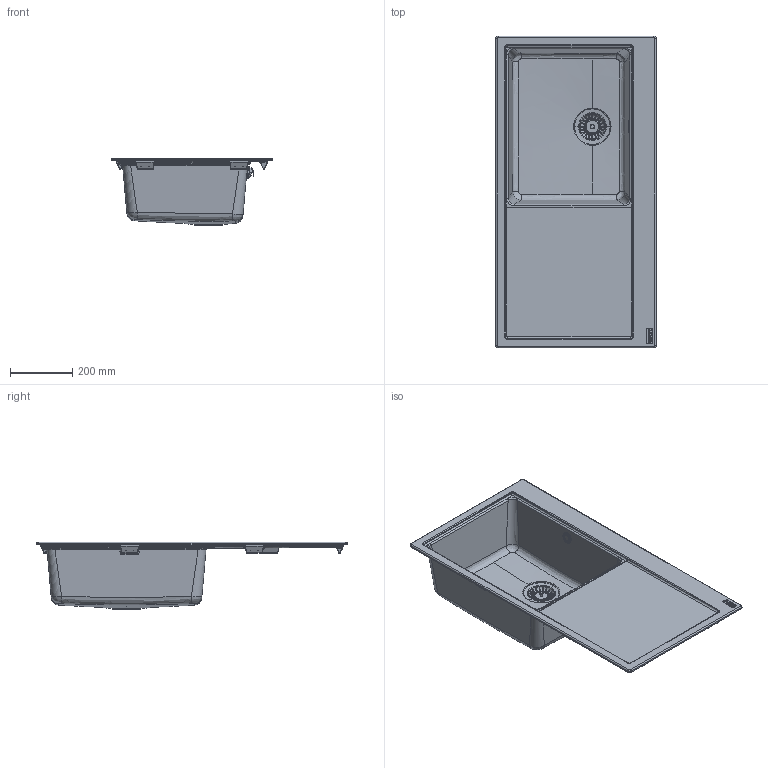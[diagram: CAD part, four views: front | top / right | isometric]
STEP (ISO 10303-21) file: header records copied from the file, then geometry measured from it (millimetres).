
FILE_DESCRIPTION(/* description */ (''),/* implementation_level */ '2;1');
FILE_NAME(/* name */ '3D001_Sinks_Mythos_MTG-611-RHD',/* time_stamp */ '2024-06-26T12:17:27+02:00',/* author */ (''),/* organization */ (''),/* preprocessor_version */ 'ST-DEVELOPER v19.2',/* originating_system */ 'Rhino 8.8',/* authorisation */ '');
FILE_SCHEMA (('CONFIG_CONTROL_DESIGN'));
Length unit declared in the file: millimetre
Products named in the file (1): Document
Bounding box: 515 x 1000 x 216.4 mm (x, y, z)
Surface area: 1639518.3 mm2
Topology: 5 solids, 9 shells, 1301 faces, 3362 edges, 2067 vertices
Faces by surface type: plane 619, bspline 371, cylinder 311
Entity records: 48439 total; most frequent: CARTESIAN_POINT 22600, ORIENTED_EDGE 6570, EDGE_CURVE 3309, DIRECTION 3008, VERTEX_POINT 2067, AXIS2_PLACEMENT_3D 1969, B_SPLINE_CURVE_WITH_KNOTS 1704, EDGE_LOOP 1373
